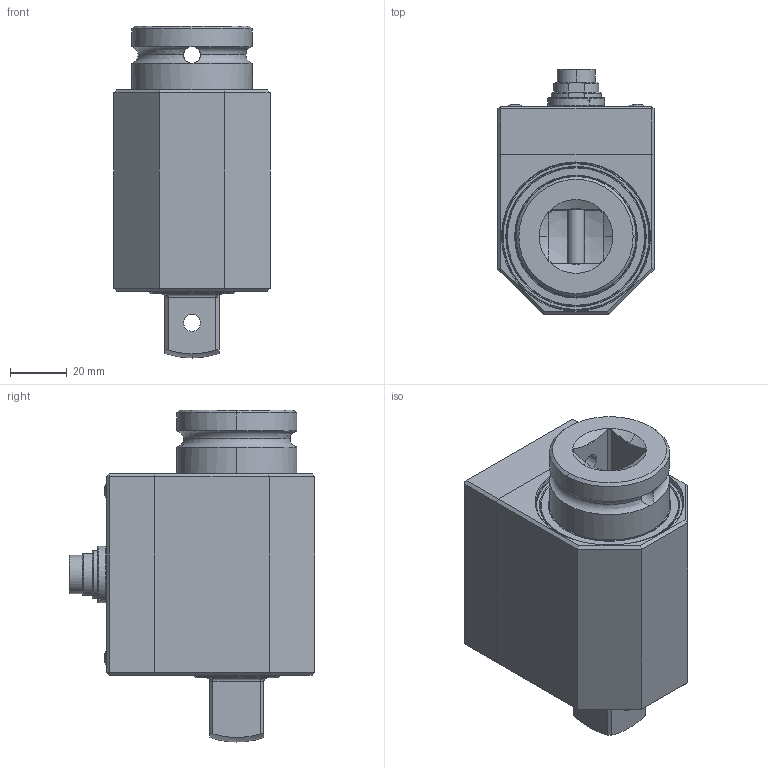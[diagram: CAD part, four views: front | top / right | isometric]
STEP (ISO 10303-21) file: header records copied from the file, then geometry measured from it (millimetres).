
FILE_DESCRIPTION (( 'STEP AP203' ), '1' );
FILE_NAME ('DRFN 3-4-w.STEP', '2014-05-13T11:22:15', ( 'nsi' ), ( '' ), 'SwSTEP 2.0', 'SolidWorks 2014', '' );
FILE_SCHEMA (( 'CONFIG_CONTROL_DESIGN' ));
Length unit declared in the file: millimetre
Products named in the file (1): DRFN 3-4-w
Bounding box: 55 x 86.6 x 117 mm (x, y, z)
Surface area: 38761.6 mm2 (no closed solid volume)
Topology: 0 solids, 28 shells, 329 faces, 975 edges, 651 vertices
Faces by surface type: plane 115, cylinder 87, cone 51, torus 50, sphere 26
Entity records: 11262 total; most frequent: CARTESIAN_POINT 2706, DIRECTION 1884, ORIENTED_EDGE 1581, EDGE_CURVE 925, AXIS2_PLACEMENT_3D 760, VERTEX_POINT 621, CIRCLE 430, EDGE_LOOP 369
